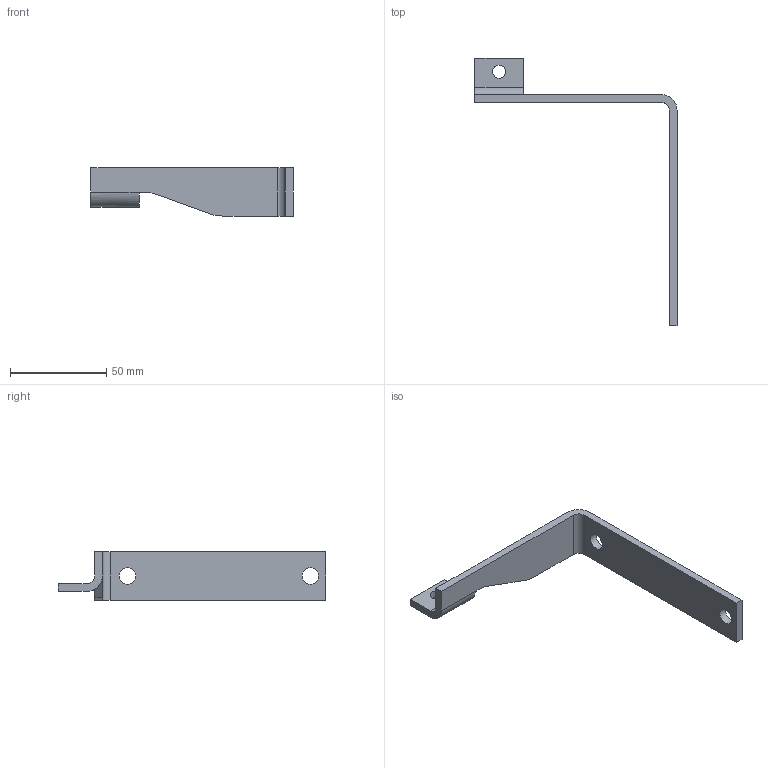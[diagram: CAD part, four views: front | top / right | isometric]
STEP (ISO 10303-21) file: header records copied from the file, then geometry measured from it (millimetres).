
FILE_DESCRIPTION(/* description */ (''),/* implementation_level */ '2;1');
FILE_NAME(/* name */ 'Staffa stabilizzazione.stp',/* time_stamp */ '2020-01-09T16:12:28+01:00',/* author */ (''),/* organization */ (''),/* preprocessor_version */ 'ST-DEVELOPER v16.7',/* originating_system */ 'SIEMENS PLM Software NX 12.0',/* authorisation */ '');
FILE_SCHEMA (('AUTOMOTIVE_DESIGN { 1 0 10303 214 3 1 1 1 }'));
Length unit declared in the file: millimetre
Products named in the file (1): bmas14C457FFz01u
Bounding box: 105 x 139 x 25 mm (x, y, z)
Volume: 21295.4 mm3; surface area: 13046 mm2
Topology: 1 solids, 1 shells, 24 faces, 64 edges, 42 vertices
Faces by surface type: plane 14, cylinder 10
Full cylindrical faces by diameter (mm): 6.8 x1, 8.5 x2
Entity records: 805 total; most frequent: CARTESIAN_POINT 158, DIRECTION 127, ORIENTED_EDGE 122, EDGE_CURVE 61, AXIS2_PLACEMENT_3D 43, VERTEX_POINT 42, LINE 41, VECTOR 41
